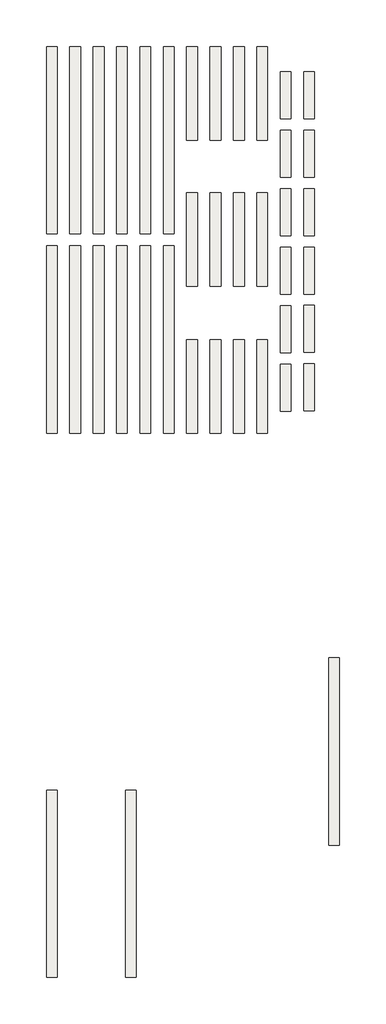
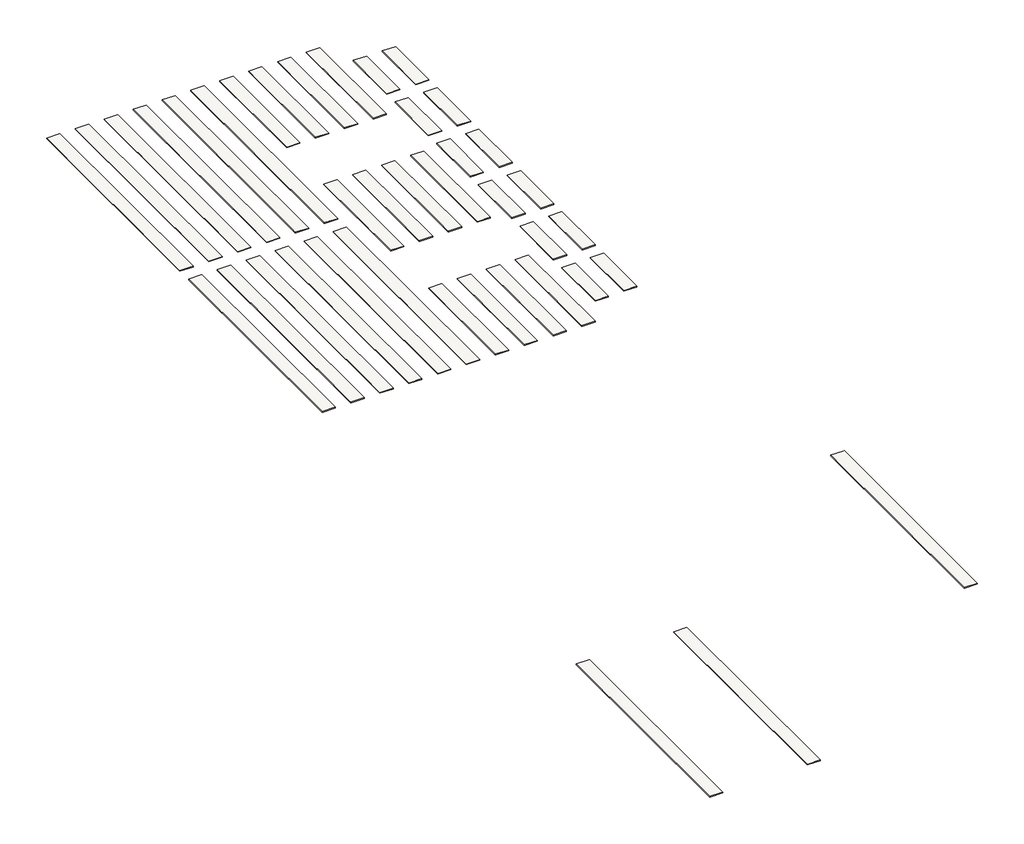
# One storey: 39 slabs.
"""IFC4 building model written with IfcOpenShell, lengths in millimetres."""

from ifc_helpers import new_model, si_unit, frame, origin, place, context, project, spatial, polyline, outline, extrude, faceted_brep, element, save

model = new_model("IFC4")

# Units and contexts
model_context = context("Model", 3, world=origin())
ifc_project = project(units=[si_unit("LENGTHUNIT", "METRE", prefix="MILLI")], contexts=[model_context])

# Site, building, storey
site = spatial("IfcSite", under=ifc_project)
building = spatial("IfcBuilding", under=site)
storey = spatial("IfcBuildingStorey", under=building, Name="Level 02 - T.O. Footing", Elevation=-2743.2)

# Slabs
placement = place(None, origin())
element("IfcSlab", 1, ObjectType="Brazilian Ipe 5.5x96 Straight Grain - UH02", at=placement, inside=storey, context=model_context, shape_type="SweptSolid", body=[
    extrude(outline(polyline([(8230.108, -5940.3828077), (8230.108, -10817.1828077), (7671.308, -10817.1828077), (7671.308, -5940.3828077), (8230.108, -5940.3828077)])), frame((0.0, 0.0, -2776.2398438), z_axis=(0.0, 0.0, 1.0), x_axis=(1.0, 0.0, 0.0)), (0.0, 0.0, 1.0), 33.0398437),
])
element("IfcSlab", 2, ObjectType="Brazilian Ipe 5.5x96 Wood Grain - UH02", at=placement, inside=storey, context=model_context, shape_type="SweptSolid", body=[
    extrude(outline(polyline([(9449.308, -5940.3828077), (9449.308, -10817.1828077), (8890.508, -10817.1828077), (8890.508, -5940.3828077), (9449.308, -5940.3828077)])), frame((0.0, 0.0, -2776.2398438), z_axis=(0.0, 0.0, 1.0), x_axis=(1.0, 0.0, 0.0)), (0.0, 0.0, 1.0), 33.0398437),
])
element("IfcSlab", 3, ObjectType="Hawaiian Charcoal 5.5x96 Wood Grain - UH02", at=placement, inside=storey, context=model_context, shape_type="SweptSolid", body=[
    extrude(outline(polyline([(9449.308, 1716.2997186), (9449.308, -3160.5002814), (8890.508, -3160.5002814), (8890.508, 1716.2997186), (9449.308, 1716.2997186)])), frame((0.0, 0.0, -2776.2398438), z_axis=(0.0, 0.0, 1.0), x_axis=(1.0, 0.0, 0.0)), (0.0, 0.0, 1.0), 33.0398437),
])
element("IfcSlab", 4, ObjectType="Peruvian Teak 5.5x96 Straight Grain - UH02", at=placement, inside=storey, context=model_context, shape_type="SweptSolid", body=[
    extrude(outline(polyline([(10668.508, -5940.3828077), (10668.508, -10817.1828077), (10109.708, -10817.1828077), (10109.708, -5940.3828077), (10668.508, -5940.3828077)])), frame((0.0, 0.0, -2776.2398438), z_axis=(0.0, 0.0, 1.0), x_axis=(1.0, 0.0, 0.0)), (0.0, 0.0, 1.0), 33.0398437),
])
element("IfcSlab", 5, ObjectType="Peruvian Teak 5.5x96 Wood Grain - UH02", at=placement, inside=storey, context=model_context, shape_type="SweptSolid", body=[
    extrude(outline(polyline([(11887.708, -5940.3828077), (11887.708, -10817.1828077), (11328.908, -10817.1828077), (11328.908, -5940.3828077), (11887.708, -5940.3828077)])), frame((0.0, 0.0, -2776.2398438), z_axis=(0.0, 0.0, 1.0), x_axis=(1.0, 0.0, 0.0)), (0.0, 0.0, 1.0), 33.0398437),
])
element("IfcSlab", 6, ObjectType="Westminister Gray 5.5x96 Straight Grain - UH02", at=placement, inside=storey, context=model_context, shape_type="SweptSolid", body=[
    extrude(outline(polyline([(10668.508, 9325.0171923), (10668.508, 4448.2171923), (10109.708, 4448.2171923), (10109.708, 9325.0171923), (10668.508, 9325.0171923)])), frame((0.0, 0.0, -2776.2398438), z_axis=(0.0, 0.0, 1.0), x_axis=(1.0, 0.0, 0.0)), (0.0, 0.0, 1.0), 33.0398437),
])
element("IfcSlab", 7, ObjectType="Westminister Gray 5.5x96 Wood Grain - UH02", at=placement, inside=storey, context=model_context, shape_type="SweptSolid", body=[
    extrude(outline(polyline([(11887.708, 9325.0171923), (11887.708, 4448.2171923), (11328.908, 4448.2171923), (11328.908, 9325.0171923), (11887.708, 9325.0171923)])), frame((0.0, 0.0, -2776.2398438), z_axis=(0.0, 0.0, 1.0), x_axis=(1.0, 0.0, 0.0)), (0.0, 0.0, 1.0), 33.0398437),
])
element("IfcSlab", 8, ObjectType="Brazilian Ipe 5.5x192 Straight Grain - UH02", at=placement, inside=storey, context=model_context, shape_type="SweptSolid", body=[
    extrude(outline(polyline([(914.908, -1063.5828077), (914.908, -10817.1828077), (356.108, -10817.1828077), (356.108, -1063.5828077), (914.908, -1063.5828077)])), frame((0.0, 0.0, -2776.2398438), z_axis=(0.0, 0.0, 1.0), x_axis=(1.0, 0.0, 0.0)), (0.0, 0.0, 1.0), 33.0398437),
])
element("IfcSlab", 9, ObjectType="Brazilian Ipe 5.5x192 Wood Grain - UH02", at=placement, inside=storey, context=model_context, shape_type="SweptSolid", body=[
    extrude(outline(polyline([(2134.108, -1063.5828077), (2134.108, -10817.1828077), (1575.308, -10817.1828077), (1575.308, -1063.5828077), (2134.108, -1063.5828077)])), frame((0.0, 0.0, -2776.2398438), z_axis=(0.0, 0.0, 1.0), x_axis=(1.0, 0.0, 0.0)), (0.0, 0.0, 1.0), 33.0398437),
])
element("IfcSlab", 10, ObjectType="Hawaiian Charcoal 5.5x192 Straight Grain - UH02", at=placement, inside=storey, context=model_context, shape_type="SweptSolid", body=[
    extrude(outline(polyline([(3353.308, -1063.5828077), (3353.308, -10817.1828077), (2794.508, -10817.1828077), (2794.508, -1063.5828077), (3353.308, -1063.5828077)])), frame((0.0, 0.0, -2776.2398438), z_axis=(0.0, 0.0, 1.0), x_axis=(1.0, 0.0, 0.0)), (0.0, 0.0, 1.0), 33.0398437),
])
element("IfcSlab", 11, ObjectType="Hawaiian Charcoal 5.5x192 Wood Grain - UH02", at=placement, inside=storey, context=model_context, shape_type="SweptSolid", body=[
    extrude(outline(polyline([(4572.508, -1063.5828077), (4572.508, -10817.1828077), (4013.708, -10817.1828077), (4013.708, -1063.5828077), (4572.508, -1063.5828077)])), frame((0.0, 0.0, -2776.2398438), z_axis=(0.0, 0.0, 1.0), x_axis=(1.0, 0.0, 0.0)), (0.0, 0.0, 1.0), 33.0398437),
])
element("IfcSlab", 12, ObjectType="Peruvian Teak 5.5x192 Straight Grain - UH02", at=placement, inside=storey, context=model_context, shape_type="SweptSolid", body=[
    extrude(outline(polyline([(5791.708, -1063.5828077), (5791.708, -10817.1828077), (5232.908, -10817.1828077), (5232.908, -1063.5828077), (5791.708, -1063.5828077)])), frame((0.0, 0.0, -2776.2398438), z_axis=(0.0, 0.0, 1.0), x_axis=(1.0, 0.0, 0.0)), (0.0, 0.0, 1.0), 33.0398437),
])
element("IfcSlab", 13, ObjectType="Peruvian Teak 5.5x192 Wood Grain - UH02", at=placement, inside=storey, context=model_context, shape_type="SweptSolid", body=[
    extrude(outline(polyline([(7010.908, -1063.5828077), (7010.908, -10817.1828077), (6452.108, -10817.1828077), (6452.108, -1063.5828077), (7010.908, -1063.5828077)])), frame((0.0, 0.0, -2776.2398438), z_axis=(0.0, 0.0, 1.0), x_axis=(1.0, 0.0, 0.0)), (0.0, 0.0, 1.0), 33.0398437),
])
element("IfcSlab", 14, ObjectType="Westminister Gray 5.5x192 Straight Grain - UH02", at=placement, inside=storey, context=model_context, shape_type="SweptSolid", body=[
    extrude(outline(polyline([(5791.708, 9325.0171923), (5791.708, -428.5828077), (5232.908, -428.5828077), (5232.908, 9325.0171923), (5791.708, 9325.0171923)])), frame((0.0, 0.0, -2776.2398438), z_axis=(0.0, 0.0, 1.0), x_axis=(1.0, 0.0, 0.0)), (0.0, 0.0, 1.0), 33.0398437),
])
element("IfcSlab", 15, ObjectType="Westminister Gray 5.5x192 Wood Grain - UH02", at=placement, inside=storey, context=model_context, shape_type="SweptSolid", body=[
    extrude(outline(polyline([(7010.908, 9325.0171923), (7010.908, -428.5828077), (6452.108, -428.5828077), (6452.108, 9325.0171923), (7010.908, 9325.0171923)])), frame((0.0, 0.0, -2776.2398438), z_axis=(0.0, 0.0, 1.0), x_axis=(1.0, 0.0, 0.0)), (0.0, 0.0, 1.0), 33.0398437),
])
element("IfcSlab", 16, ObjectType="Hawaiian Charcoal 5.5x96 Straight Grain - UH02", at=placement, inside=storey, context=model_context, shape_type="SweptSolid", body=[
    extrude(outline(polyline([(8230.108, 1716.2997186), (8230.108, -3160.5002814), (7671.308, -3160.5002814), (7671.308, 1716.2997186), (8230.108, 1716.2997186)])), frame((0.0, 0.0, -2776.2398438), z_axis=(0.0, 0.0, 1.0), x_axis=(1.0, 0.0, 0.0)), (0.0, 0.0, 1.0), 33.0398437),
])
element("IfcSlab", 17, ObjectType="Brazilian Ipe 5.5x96 Straight Grain - UH02", at=placement, inside=storey, context=model_context, shape_type="SweptSolid", body=[
    extrude(outline(polyline([(13106.908, -7235.7828077), (13106.908, -9674.1828077), (12548.108, -9674.1828077), (12548.108, -7235.7828077), (13106.908, -7235.7828077)])), frame((0.0, 0.0, -2776.2398438), z_axis=(0.0, 0.0, 1.0), x_axis=(1.0, 0.0, 0.0)), (0.0, 0.0, 1.0), 33.0398437),
])
element("IfcSlab", 18, ObjectType="Brazilian Ipe 5.5x96 Wood Grain - UH02", at=placement, inside=storey, context=model_context, shape_type="SweptSolid", body=[
    extrude(outline(polyline([(13106.908, -4187.7828077), (13106.908, -6626.1828077), (12548.108, -6626.1828077), (12548.108, -4187.7828077), (13106.908, -4187.7828077)])), frame((0.0, 0.0, -2776.2398438), z_axis=(0.0, 0.0, 1.0), x_axis=(1.0, 0.0, 0.0)), (0.0, 0.0, 1.0), 33.0398437),
])
element("IfcSlab", 19, ObjectType="Hawaiian Charcoal 5.5x96 Straight Grain - UH02", at=placement, inside=storey, context=model_context, shape_type="SweptSolid", body=[
    extrude(outline(polyline([(13106.908, -1139.7828077), (13106.908, -3578.1828077), (12548.108, -3578.1828077), (12548.108, -1139.7828077), (13106.908, -1139.7828077)])), frame((0.0, 0.0, -2776.2398438), z_axis=(0.0, 0.0, 1.0), x_axis=(1.0, 0.0, 0.0)), (0.0, 0.0, 1.0), 33.0398437),
])
element("IfcSlab", 20, ObjectType="Hawaiian Charcoal 5.5x192 Wood Grain - UH02", at=placement, inside=storey, context=model_context, shape_type="SweptSolid", body=[
    extrude(outline(polyline([(13106.908, 1908.2171923), (13106.908, -530.1828077), (12548.108, -530.1828077), (12548.108, 1908.2171923), (13106.908, 1908.2171923)])), frame((0.0, 0.0, -2776.2398438), z_axis=(0.0, 0.0, 1.0), x_axis=(1.0, 0.0, 0.0)), (0.0, 0.0, 1.0), 33.0398437),
])
element("IfcSlab", 21, ObjectType="Westminister Gray 5.5x96 Straight Grain - UH02", at=placement, inside=storey, context=model_context, shape_type="SweptSolid", body=[
    extrude(outline(polyline([(14326.108, 4956.2171923), (14326.108, 2517.8171923), (13767.308, 2517.8171923), (13767.308, 4956.2171923), (14326.108, 4956.2171923)])), frame((0.0, 0.0, -2776.2398438), z_axis=(0.0, 0.0, 1.0), x_axis=(1.0, 0.0, 0.0)), (0.0, 0.0, 1.0), 33.0398437),
])
element("IfcSlab", 22, ObjectType="Westminister Gray 5.5x96 Wood Grain - UH02", at=placement, inside=storey, context=model_context, shape_type="SweptSolid", body=[
    extrude(outline(polyline([(14326.108, 8004.2171923), (14326.108, 5565.8171923), (13767.308, 5565.8171923), (13767.308, 8004.2171923), (14326.108, 8004.2171923)])), frame((0.0, 0.0, -2776.2398438), z_axis=(0.0, 0.0, 1.0), x_axis=(1.0, 0.0, 0.0)), (0.0, 0.0, 1.0), 33.0398437),
])
element("IfcSlab", 23, ObjectType="Peruvian Teak 5.5x96 Straight Grain - UH02", at=placement, inside=storey, context=model_context, shape_type="SweptSolid", body=[
    extrude(outline(polyline([(13106.908, 4956.2171923), (13106.908, 2517.8171923), (12548.108, 2517.8171923), (12548.108, 4956.2171923), (13106.908, 4956.2171923)])), frame((0.0, 0.0, -2776.2398438), z_axis=(0.0, 0.0, 1.0), x_axis=(1.0, 0.0, 0.0)), (0.0, 0.0, 1.0), 33.0398437),
])
element("IfcSlab", 24, ObjectType="Peruvian Teak 5.5x96 Wood Grain - UH02", at=placement, inside=storey, context=model_context, shape_type="SweptSolid", body=[
    extrude(outline(polyline([(13106.908, 8004.2171923), (13106.908, 5565.8171923), (12548.108, 5565.8171923), (12548.108, 8004.2171923), (13106.908, 8004.2171923)])), frame((0.0, 0.0, -2776.2398438), z_axis=(0.0, 0.0, 1.0), x_axis=(1.0, 0.0, 0.0)), (0.0, 0.0, 1.0), 33.0398437),
])
element("IfcSlab", 25, ObjectType="Hawaiian Charcoal 5.5x96 Wood Grain - UH02", at=placement, inside=storey, context=model_context, shape_type="Brep", body=[
    faceted_brep([(914.908, -29409.9828077, -2776.2398438), (914.908, -39163.5828077, -2776.2398438), (356.108, -39163.5828077, -2776.2398438), (356.108, -29409.9828077, -2776.2398438), (914.908, -29409.9828077, -2743.2), (891.808, -29409.9828077, -2743.2), (356.108, -29409.9828077, -2743.2), (356.108, -39163.5828077, -2743.2), (891.808, -39163.5828077, -2743.2), (914.908, -39163.5828077, -2743.2), (914.908, -29409.9828077, -2766.3), (914.908, -39163.5828077, -2766.3)], [[[0, 1, 2, 3]], [[4, 5, 6, 7, 8, 9]], [[1, 0, 10, 4, 9, 11]], [[2, 1, 11, 9, 8, 7]], [[3, 2, 7, 6]], [[0, 3, 6, 5, 4, 10]]]),
])
element("IfcSlab", 26, ObjectType="Brazilian Ipe 5.5x192 Straight Grain - UH02", at=placement, inside=storey, context=model_context, shape_type="SweptSolid", body=[
    extrude(outline(polyline([(5029.708, -29409.9828077), (5029.708, -39163.5828077), (4470.908, -39163.5828077), (4470.908, -29409.9828077), (5029.708, -29409.9828077)])), frame((0.0, 0.0, -2776.2398438), z_axis=(0.0, 0.0, 1.0), x_axis=(1.0, 0.0, 0.0)), (0.0, 0.0, 1.0), 33.0398437),
])
element("IfcSlab", 27, ObjectType="Westminister Gray 5.5x192 Wood Grain - UH02", at=placement, inside=storey, context=model_context, shape_type="Brep", body=[
    faceted_brep([(15638.2197481, -22520.734726, -2776.2398438), (15638.2197481, -32274.334726, -2776.2398438), (15079.4197481, -32274.334726, -2776.2398438), (15079.4197481, -22520.734726, -2776.2398438), (15638.2197481, -22520.734726, -2743.2), (15615.1197481, -22520.734726, -2743.2), (15079.4197481, -22520.734726, -2743.2), (15079.4197481, -32274.334726, -2743.2), (15615.1197481, -32274.334726, -2743.2), (15638.2197481, -32274.334726, -2743.2), (15638.2197481, -22520.734726, -2766.3), (15638.2197481, -32274.334726, -2766.3)], [[[0, 1, 2, 3]], [[4, 5, 6, 7, 8, 9]], [[1, 0, 10, 4, 9, 11]], [[2, 1, 11, 9, 8, 7]], [[3, 2, 7, 6]], [[0, 3, 6, 5, 4, 10]]]),
])
element("IfcSlab", 28, ObjectType="Roman Antique 5.5x192 Straight Grain - UH02", at=placement, inside=storey, context=model_context, shape_type="SweptSolid", body=[
    extrude(outline(polyline([(914.908, 9325.0171923), (914.908, -428.5828077), (356.108, -428.5828077), (356.108, 9325.0171923), (914.908, 9325.0171923)])), frame((0.0, 0.0, -2776.2398438), z_axis=(0.0, 0.0, 1.0), x_axis=(1.0, 0.0, 0.0)), (0.0, 0.0, 1.0), 33.0398437),
])
element("IfcSlab", 29, ObjectType="Roman Antique 5.5x192 Wood Grain - UH02", at=placement, inside=storey, context=model_context, shape_type="SweptSolid", body=[
    extrude(outline(polyline([(2134.108, 9325.0171923), (2134.108, -428.5828077), (1575.308, -428.5828077), (1575.308, 9325.0171923), (2134.108, 9325.0171923)])), frame((0.0, 0.0, -2776.2398438), z_axis=(0.0, 0.0, 1.0), x_axis=(1.0, 0.0, 0.0)), (0.0, 0.0, 1.0), 33.0398437),
])
element("IfcSlab", 30, ObjectType="Roman Antique 5.5x96 Straight Grain - UH02", at=placement, inside=storey, context=model_context, shape_type="SweptSolid", body=[
    extrude(outline(polyline([(8230.108, 9325.0171923), (8230.108, 4448.2171923), (7671.308, 4448.2171923), (7671.308, 9325.0171923), (8230.108, 9325.0171923)])), frame((0.0, 0.0, -2776.2398438), z_axis=(0.0, 0.0, 1.0), x_axis=(1.0, 0.0, 0.0)), (0.0, 0.0, 1.0), 33.0398437),
])
element("IfcSlab", 31, ObjectType="Roman Antique 5.5x96 Straight Grain - UH02", at=placement, inside=storey, context=model_context, shape_type="SweptSolid", body=[
    extrude(outline(polyline([(14326.108, -7208.7221026), (14326.108, -9647.1221026), (13767.308, -9647.1221026), (13767.308, -7208.7221026), (14326.108, -7208.7221026)])), frame((0.0, 0.0, -2776.2398438), z_axis=(0.0, 0.0, 1.0), x_axis=(1.0, 0.0, 0.0)), (0.0, 0.0, 1.0), 33.0398437),
])
element("IfcSlab", 32, ObjectType="Roman Antique 5.5x96 Wood Grain - UH02", at=placement, inside=storey, context=model_context, shape_type="SweptSolid", body=[
    extrude(outline(polyline([(9449.308, 9325.0171923), (9449.308, 4448.2171923), (8890.508, 4448.2171923), (8890.508, 9325.0171923), (9449.308, 9325.0171923)])), frame((0.0, 0.0, -2776.2398438), z_axis=(0.0, 0.0, 1.0), x_axis=(1.0, 0.0, 0.0)), (0.0, 0.0, 1.0), 33.0398437),
])
element("IfcSlab", 33, ObjectType="Roman Antique 5.5x96 Wood Grain - UH02", at=placement, inside=storey, context=model_context, shape_type="SweptSolid", body=[
    extrude(outline(polyline([(14326.108, -4160.7221026), (14326.108, -6599.1221026), (13767.308, -6599.1221026), (13767.308, -4160.7221026), (14326.108, -4160.7221026)])), frame((0.0, 0.0, -2776.2398438), z_axis=(0.0, 0.0, 1.0), x_axis=(1.0, 0.0, 0.0)), (0.0, 0.0, 1.0), 33.0398437),
])
element("IfcSlab", 34, ObjectType="Spanish Walnut 5.5x192 Straight Grain - UH02", at=placement, inside=storey, context=model_context, shape_type="SweptSolid", body=[
    extrude(outline(polyline([(3353.308, 9325.0171923), (3353.308, -428.5828077), (2794.508, -428.5828077), (2794.508, 9325.0171923), (3353.308, 9325.0171923)])), frame((0.0, 0.0, -2776.2398438), z_axis=(0.0, 0.0, 1.0), x_axis=(1.0, 0.0, 0.0)), (0.0, 0.0, 1.0), 33.0398437),
])
element("IfcSlab", 35, ObjectType="Spanish Walnut 5.5x192 Wood Grain - UH02", at=placement, inside=storey, context=model_context, shape_type="SweptSolid", body=[
    extrude(outline(polyline([(4572.508, 9325.0171923), (4572.508, -428.5828077), (4013.708, -428.5828077), (4013.708, 9325.0171923), (4572.508, 9325.0171923)])), frame((0.0, 0.0, -2776.2398438), z_axis=(0.0, 0.0, 1.0), x_axis=(1.0, 0.0, 0.0)), (0.0, 0.0, 1.0), 33.0398437),
])
element("IfcSlab", 36, ObjectType="Spanish Walnut 5.5x96 Straight Grain - UH02", at=placement, inside=storey, context=model_context, shape_type="SweptSolid", body=[
    extrude(outline(polyline([(10668.508, 1716.2997186), (10668.508, -3160.5002814), (10109.708, -3160.5002814), (10109.708, 1716.2997186), (10668.508, 1716.2997186)])), frame((0.0, 0.0, -2776.2398438), z_axis=(0.0, 0.0, 1.0), x_axis=(1.0, 0.0, 0.0)), (0.0, 0.0, 1.0), 33.0398437),
])
element("IfcSlab", 37, ObjectType="Spanish Walnut 5.5x96 Straight Grain - UH02", at=placement, inside=storey, context=model_context, shape_type="SweptSolid", body=[
    extrude(outline(polyline([(14326.108, -1139.7828077), (14326.108, -3578.1828077), (13767.308, -3578.1828077), (13767.308, -1139.7828077), (14326.108, -1139.7828077)])), frame((0.0, 0.0, -2776.2398438), z_axis=(0.0, 0.0, 1.0), x_axis=(1.0, 0.0, 0.0)), (0.0, 0.0, 1.0), 33.0398437),
])
element("IfcSlab", 38, ObjectType="Spanish Walnut 5.5x96 Wood Grain - UH02", at=placement, inside=storey, context=model_context, shape_type="SweptSolid", body=[
    extrude(outline(polyline([(11887.708, 1716.2997186), (11887.708, -3160.5002814), (11328.908, -3160.5002814), (11328.908, 1716.2997186), (11887.708, 1716.2997186)])), frame((0.0, 0.0, -2776.2398438), z_axis=(0.0, 0.0, 1.0), x_axis=(1.0, 0.0, 0.0)), (0.0, 0.0, 1.0), 33.0398437),
])
element("IfcSlab", 39, ObjectType="Spanish Walnut 5.5x96 Wood Grain - UH02", at=placement, inside=storey, context=model_context, shape_type="SweptSolid", body=[
    extrude(outline(polyline([(14326.108, 1908.2171923), (14326.108, -530.1828077), (13767.308, -530.1828077), (13767.308, 1908.2171923), (14326.108, 1908.2171923)])), frame((0.0, 0.0, -2776.2398438), z_axis=(0.0, 0.0, 1.0), x_axis=(1.0, 0.0, 0.0)), (0.0, 0.0, 1.0), 33.0398437),
])

save(model, "model.ifc")
